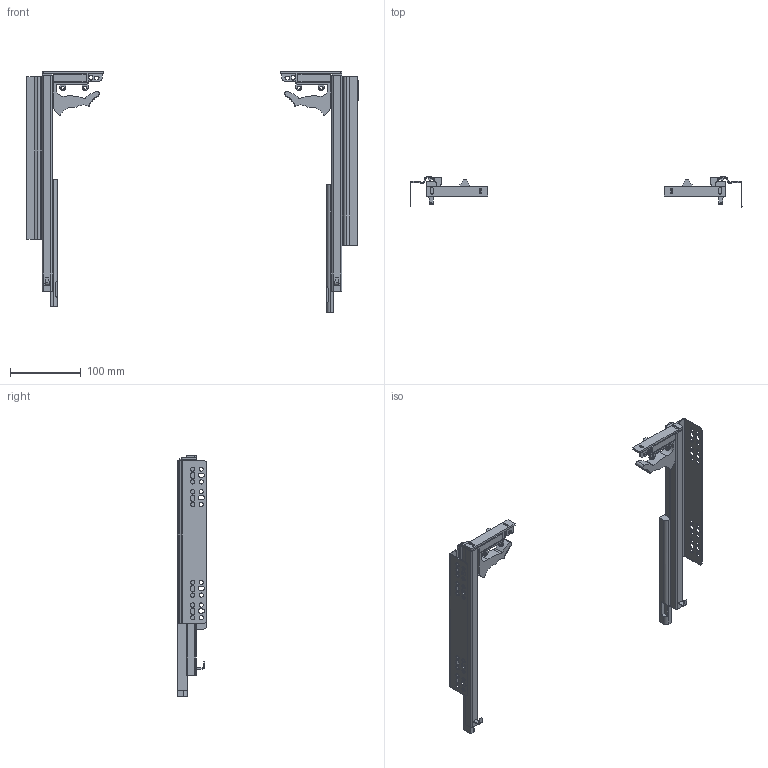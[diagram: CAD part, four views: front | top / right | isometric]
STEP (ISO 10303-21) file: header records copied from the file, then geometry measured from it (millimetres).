
FILE_DESCRIPTION(/* description */ ('Akc'),/* implementation_level */ '2;1');
FILE_NAME(/* name */ 'C:\Users\dmitruk\Documents\WORK\НАПРАВЛЯЮЩИЕ\Скрытого монтажа\Q-Type\Q-Type с замками (18 мм)\Q-Type с замками (18 мм)-300.stp',/* time_stamp */ '2022-04-22T17:46:57+03:00',/* author */ ('dmitruk'),/* organization */ (''),/* preprocessor_version */ 'ST-DEVELOPER v16.5',/* originating_system */ 'Autodesk Inventor 2017',/* authorisation */ '');
FILE_SCHEMA (('AUTOMOTIVE_DESIGN { 1 0 10303 214 3 1 1 }'));
Length unit declared in the file: millimetre
Products named in the file (6): Q-Type с замками 
(18 мм); Q-Type с замками \X2\043E0441
043D043E04320430043D04380435\X0\ L (18 мм); Q-Type с замками \X2\043E0441
043D043E04320430043D04380435\X0\ P (18 мм); Q-Type с замками 
выдвижение P; Крепление QType; Крепление QType P
Assembly tree (6 placements, depth 2):
  Q-Type с замками 
(18 мм)
    Q-Type с замками \X2\043E0441
043D043E04320430043D04380435\X0\ L (18 мм)
    Q-Type с замками 
выдвижение P  x2
    Q-Type с замками \X2\043E0441
043D043E04320430043D04380435\X0\ P (18 мм)
    Крепление QType
    Крепление QType P
Bounding box: 469.18 x 42 x 340 mm (x, y, z)
Volume: 203658.3 mm3; surface area: 199899.9 mm2
Topology: 14 solids, 14 shells, 570 faces, 1552 edges, 1014 vertices
Faces by surface type: plane 334, cylinder 212, cone 20, bspline 4
Full cylindrical faces by diameter (mm): 4.5 x4, 6 x32
Entity records: 17193 total; most frequent: CARTESIAN_POINT 2985, DIRECTION 2874, ORIENTED_EDGE 2800, EDGE_CURVE 1400, LINE 980, VECTOR 980, AXIS2_PLACEMENT_3D 947, VERTEX_POINT 942
